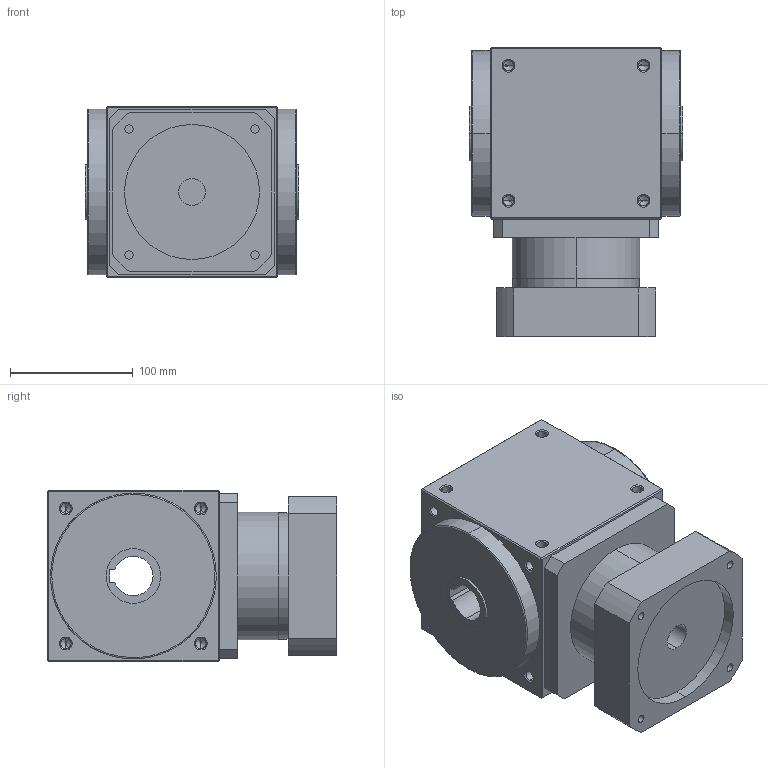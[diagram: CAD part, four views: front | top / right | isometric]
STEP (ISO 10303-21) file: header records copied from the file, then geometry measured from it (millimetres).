
FILE_DESCRIPTION (( 'STEP AP214' ), '1' );
FILE_NAME ('AT140-FC-L1-2KW_1.STEP', '2020-11-11T02:34:47', ( '微软用户' ), ( '微软中国' ), 'SwSTEP 2.0', 'SolidWorks 2014', '' );
FILE_SCHEMA (( 'AUTOMOTIVE_DESIGN' ));
Length unit declared in the file: millimetre
Products named in the file (2): AT140-FC-L1-2KW_1
Bounding box: 174 x 235.5 x 140 mm (x, y, z)
Volume: 4163675.5 mm3; surface area: 221221.7 mm2
Topology: 1 solids, 1 shells, 250 faces, 654 edges, 376 vertices
Faces by surface type: cylinder 111, cone 80, plane 55, bspline 4
Entity records: 10146 total; most frequent: CARTESIAN_POINT 1674, ORIENTED_EDGE 1228, DIRECTION 1192, EDGE_CURVE 614, AXIS2_PLACEMENT_3D 454, VERTEX_POINT 376, EDGE_LOOP 286, VECTOR 284
